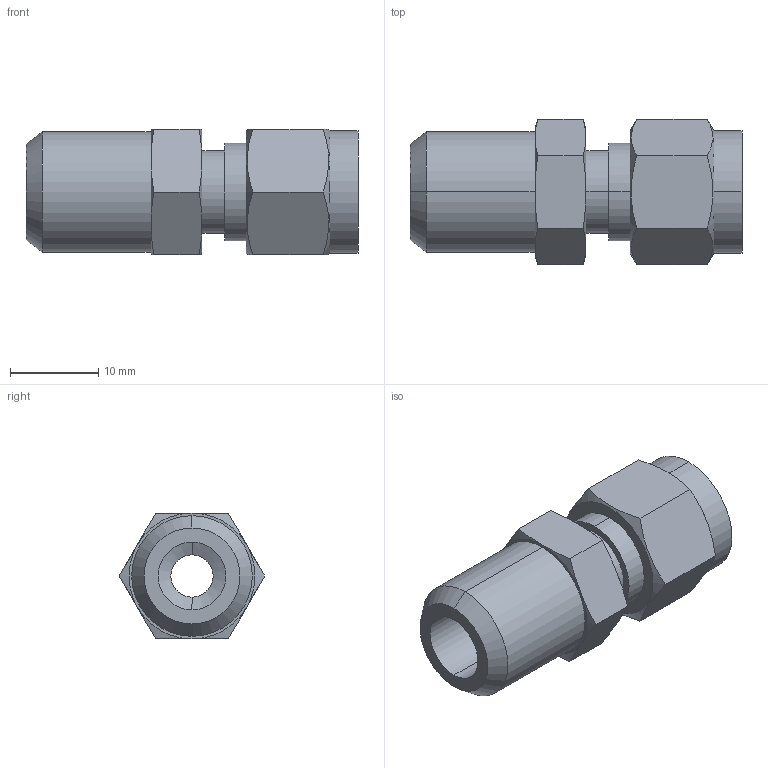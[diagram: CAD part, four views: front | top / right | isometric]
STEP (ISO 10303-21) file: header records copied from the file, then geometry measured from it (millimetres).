
FILE_DESCRIPTION (( 'STEP AP203' ), '1' );
FILE_NAME ('DCB04-04 SS.STEP', '2009-09-08T04:47:12', ( ' ' ), ( '' ), 'SwSTEP 2.0', 'SolidWorks 2008', '' );
FILE_SCHEMA (( 'CONFIG_CONTROL_DESIGN' ));
Length unit declared in the file: millimetre
Products named in the file (1): DCB04-04 SS
Bounding box: 37.7 x 16.5 x 14.29 mm (x, y, z)
Volume: 4390.2 mm3; surface area: 2867.8 mm2
Topology: 1 solids, 1 shells, 53 faces, 118 edges, 72 vertices
Faces by surface type: cone 20, plane 19, cylinder 14
Entity records: 1665 total; most frequent: CARTESIAN_POINT 452, ORIENTED_EDGE 236, DIRECTION 230, EDGE_CURVE 118, AXIS2_PLACEMENT_3D 98, VERTEX_POINT 72, EDGE_LOOP 60, ADVANCED_FACE 53
